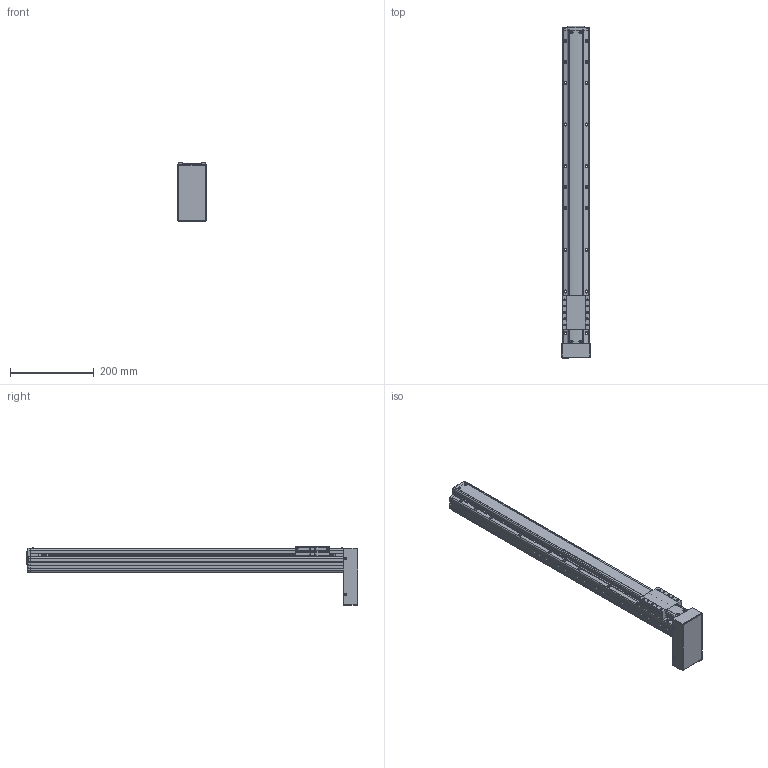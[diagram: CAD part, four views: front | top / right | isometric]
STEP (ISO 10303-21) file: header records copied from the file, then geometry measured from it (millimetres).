
FILE_DESCRIPTION(('STEP AP214'),'1');
FILE_NAME('Z:/Web/3D/PSA65/STP/PSA65-600 (3D)/PSA65ㅁㅁ-600PB.stp','2014-06-25T05:11:11',(' '),(' '),'Spatial InterOp 3D',' ',' ');
FILE_SCHEMA(('automotive_design'));
Length unit declared in the file: millimetre
Products named in the file (49): SLIDE; RRCV-PA060; 1; 2; 3; 4; 5; 6; 7; 8; 9; 10; 11; 12; 13; 14; 15; 16; 17; 18; 19; 20; 21; 22; 23; 24; 25; 26; 27; 28; 29; 30; 31; 스크루 : Round - M3.0 x 8.0; RN8 x 0.75; SHAFT-SAN65; BASE; 스크루 : Round - M3.0 x 6.0; BTCV-SAN65; M3.0 x 6.0
Bounding box: 71.13 x 794.8 x 139 mm (x, y, z)
Volume: 2638229.2 mm3; surface area: 335987.6 mm2
Topology: 49 solids, 49 shells, 1791 faces, 4747 edges, 3020 vertices
Faces by surface type: plane 1042, cylinder 509, cone 175, sphere 30, bspline 19, torus 16
Entity records: 71068 total; most frequent: CARTESIAN_POINT 11180, DIRECTION 9482, ORIENTED_EDGE 9242, EDGE_CURVE 4621, LINE 3238, VECTOR 3238, AXIS2_PLACEMENT_3D 3122, VERTEX_POINT 3020
